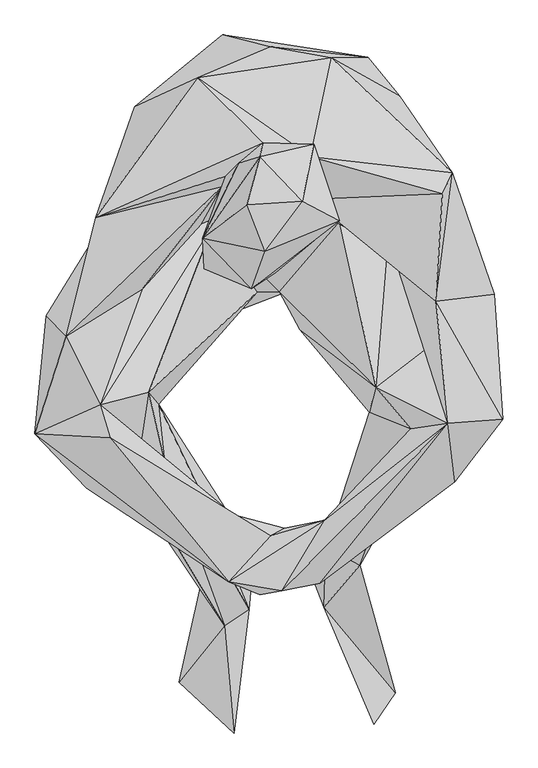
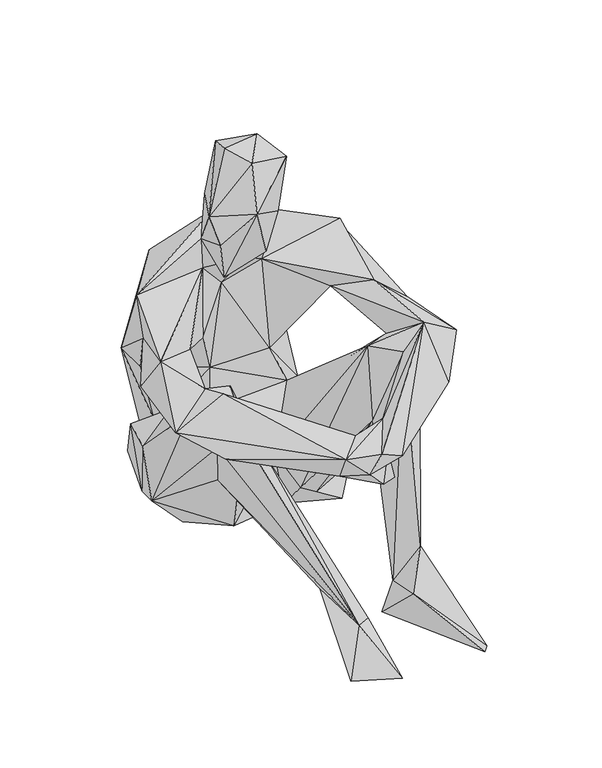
"""IFC4 building model written with IfcOpenShell, lengths in millimetres: geographic element geometry, Enscape AssetDefinition - Terrell Sitting : Enscape AssetDefinition - Terrell Sitting."""

from ifc_helpers import new_model, si_unit, origin, place, context, project, spatial, faceted_brep, source, transform, mapped, element, save


def geographic_element_d79e2ef8(model_context):
    return source(origin(), model_context, "Body", "Brep", [
        faceted_brep([(-69.9749738, 193.7705278, 305.7940602), (-196.3987797, 90.6900913, 365.691334), (-1.1522087, 177.025944, 471.1923301), (-144.8063552, 105.4798886, 154.4393897), (-173.1422395, -1.4537541, 237.7163768), (-252.1459758, -68.3381781, 611.2291217), (-105.9492305, 132.4641109, 551.887989), (-233.2037538, -63.1884336, 495.462656), (-183.2704097, 35.8780436, 347.2325206), (-104.5095474, 126.2701005, 112.0763496), (100.1647189, 77.6250735, 26.0373354), (63.4700358, 137.1574253, 104.6996266), (-182.8503609, 28.9906021, 41.7153537), (-190.9146458, 74.0734041, 117.730625), (117.5909936, 117.0489118, 144.4696039), (157.4442685, 61.159756, 164.8456305), (138.3260489, 162.1188223, 399.3470967), (183.6963296, 106.5922156, 342.4300849), (174.9456376, 15.9091633, 210.262835), (192.5068498, 13.5202659, 175.2659678), (65.4952005, -60.5108999, 365.8016026), (97.8884622, -73.940821, 280.9441686), (173.6103892, -21.0248735, 219.024092), (185.1524264, -176.421687, 107.6564193), (230.6494117, -249.9025613, 458.0534101), (176.8147498, -0.5702377, 50.5904071), (150.0100642, -311.1690879, 492.9928184), (11.7919529, -173.949495, 188.2195026), (-83.8132054, -78.2950446, 276.6626775), (-73.5418871, -59.1252036, 364.5320833), (35.5236977, -169.4004983, 56.3033484), (41.0618074, -228.5784781, 128.0606091), (-20.1988518, -174.6570021, 150.4700035), (140.8651322, -346.8687832, 332.8956366), (92.0851752, -195.660755, 75.9871081), (140.7102644, -224.5750874, 64.6738708), (211.1674547, -417.84814, 421.9207764), (203.8893253, -335.0815475, 280.141592), (319.6640015, -177.8965592, 475.2309322), (253.2489002, -362.7967238, 545.6236005), (174.7109741, -117.6379248, 515.6345367), (199.9246478, -370.7483709, 496.2358475), (76.3637424, -502.1541715, 454.900682), (127.2427887, -566.4244294, 159.5234126), (78.2821402, -539.4847393, 74.3608698), (122.4227548, -495.7348704, 128.0805618), (75.7747367, -626.4565587, 95.2883586), (46.3042408, -550.5293012, 14.7241), (92.167303, -543.1420207, 3.7311849), (177.8296828, -749.2794394, 4.7203009), (147.0814347, -793.8600183, 27.0006377), (69.859989, -592.1202898, 418.0980325), (331.9440484, -357.4123085, 496.293366), (263.1201148, -446.647495, 445.5433786), (229.6685278, -40.1935466, 475.8727252), (259.7151101, -3.9658509, 576.3296485), (235.8472645, -188.140884, 551.7753959), (15.4574309, -602.5746465, 447.7116764), (56.8993986, -41.8995656, 577.5663257), (245.5952764, -33.8000767, 607.436955), (56.5145425, 18.8636035, 673.353374), (-12.2765377, 39.2361097, 673.999846), (85.9474912, 161.2059623, 527.8993249), (62.1793754, -100.405246, 730.5237651), (61.4437014, 36.7099307, 786.4058614), (-42.7291095, -52.3410141, 560.8627796), (-10.7793696, -100.1846641, 640.6925321), (-100.2491936, -76.8929198, 458.9521587), (-70.8901659, -23.8619838, 588.60147), (-150.2247751, -27.4746623, 268.3508098), (-185.442239, -170.6899703, 515.9783363), (-213.5434598, 21.0354347, 225.3729552), (-208.7363303, -19.3939488, 191.6350573), (-161.296308, -98.5748619, 35.5753228), (-208.3667368, -54.7111407, 78.4334987), (-257.2241426, -290.4387414, 453.9983869), (-245.717302, -336.3299668, 540.0210023), (-176.1306971, -318.2454407, 511.9326115), (-161.5485847, -335.5778456, 311.8390441), (-194.3888813, -440.7995939, 426.7607331), (-152.8976262, -417.2837436, 394.5106268), (-113.8950065, -226.6108096, 87.7321288), (-220.6280231, -344.5338607, 310.6293678), (-246.4834899, -385.8878613, 423.7159491), (-85.8630165, -526.2953639, 102.9009223), (-67.1871454, -652.8306603, 82.882762), (-339.2210305, -377.6757121, 488.444984), (-265.0960088, -455.7255208, 444.5835948), (-294.0068245, -238.3147776, 564.0566349), (-323.2825398, -208.8184655, 495.9894717), (-54.2511977, -494.2517877, 424.384743), (-231.2783152, -383.6233318, 550.4201651), (-61.4695139, -589.7619128, 453.2345533), (-1.3223414, -523.9897966, 452.0342052), (18.8330971, -513.0250454, 395.9197998), (65.4893368, -540.5724645, 401.8345177), (71.2726712, -556.6270947, 343.2748914), (21.2665815, -598.4022617, 368.2808578), (-16.0171092, -608.5057855, 410.7729793), (-63.4008124, -569.1770315, 400.2000988), (3.8860643, -510.8508468, 366.2228286), (-106.5018624, -450.7787824, 260.1363361), (-32.207869, -629.3558478, 74.1191655), (-132.098034, -733.8665724, 15.8235095), (-53.8346656, -806.829989, 39.3041633), (-24.746675, -548.9840508, 17.4227562), (-60.657572, -528.8004279, 18.6277647), (-65.654777, -8.5617788, 649.5019197), (-16.2564665, 18.8682973, 858.8495851), (-47.3367684, 9.6259881, 744.4406152), (-98.7977833, -98.014012, 770.6762552), (-34.5920734, -49.4581461, 889.0440464), (44.8821671, -44.7601415, 893.7314749), (98.0362967, -72.6395994, 835.8569741), (-8.731911, -116.213508, 882.4052811), (-28.2560997, -170.2699214, 795.778513), (7.0211985, -146.3762671, 677.1936417), (-96.7491567, -141.1221027, 723.6539721), (-83.4999308, -131.8211257, 636.1446977)], [[[0, 1, 2]], [[1, 3, 4]], [[5, 6, 1]], [[1, 7, 5]], [[1, 0, 3]], [[6, 2, 1]], [[8, 7, 1]], [[8, 1, 4]], [[9, 3, 0]], [[4, 3, 9]], [[10, 9, 11]], [[9, 10, 12]], [[9, 13, 4]], [[0, 11, 9]], [[12, 13, 9]], [[14, 11, 0]], [[10, 11, 15]], [[11, 14, 15]], [[0, 16, 14]], [[16, 17, 14]], [[17, 18, 14]], [[15, 14, 18]], [[10, 15, 19]], [[19, 15, 18]], [[17, 20, 18]], [[18, 20, 21]], [[18, 22, 19]], [[18, 21, 22]], [[23, 19, 24]], [[19, 23, 25]], [[25, 10, 19]], [[24, 19, 22]], [[22, 21, 26]], [[24, 22, 26]], [[21, 27, 26]], [[27, 21, 28]], [[21, 29, 28]], [[29, 21, 20]], [[27, 30, 31]], [[31, 26, 27]], [[28, 32, 27]], [[32, 30, 27]], [[33, 26, 31]], [[33, 31, 34]], [[30, 35, 31]], [[35, 34, 31]], [[23, 33, 34]], [[35, 23, 34]], [[35, 30, 23]], [[24, 36, 23]], [[23, 36, 37]], [[30, 25, 23]], [[33, 23, 37]], [[36, 24, 38]], [[39, 24, 26]], [[24, 39, 40]], [[40, 38, 24]], [[41, 39, 26]], [[41, 26, 33]], [[41, 36, 42]], [[43, 36, 41]], [[44, 41, 33]], [[44, 43, 41]], [[42, 39, 41]], [[45, 33, 37]], [[33, 45, 44]], [[46, 43, 44]], [[44, 47, 46]], [[47, 44, 48]], [[45, 48, 44]], [[37, 43, 45]], [[45, 43, 48]], [[49, 48, 43]], [[49, 47, 48]], [[37, 36, 43]], [[49, 43, 46]], [[50, 49, 46]], [[47, 50, 46]], [[50, 47, 49]], [[36, 51, 42]], [[36, 38, 52]], [[53, 36, 52]], [[36, 53, 51]], [[54, 38, 40]], [[38, 54, 55]], [[56, 38, 55]], [[52, 38, 56]], [[39, 53, 52]], [[56, 39, 52]], [[39, 51, 53]], [[39, 57, 51]], [[39, 56, 40]], [[57, 39, 42]], [[40, 56, 58]], [[58, 56, 59]], [[59, 56, 55]], [[58, 59, 60]], [[60, 59, 55]], [[6, 61, 60]], [[62, 60, 55]], [[62, 6, 60]], [[63, 58, 60]], [[63, 60, 64]], [[60, 61, 64]], [[61, 6, 5]], [[2, 6, 62]], [[62, 55, 17]], [[62, 17, 16]], [[62, 16, 2]], [[0, 2, 16]], [[54, 17, 55]], [[20, 17, 54]], [[20, 54, 40]], [[20, 58, 65]], [[40, 58, 20]], [[65, 29, 20]], [[58, 63, 66]], [[58, 66, 65]], [[65, 67, 29]], [[68, 65, 66]], [[68, 67, 65]], [[8, 69, 29]], [[29, 69, 28]], [[67, 8, 29]], [[67, 68, 70]], [[8, 67, 7]], [[70, 7, 67]], [[4, 69, 8]], [[71, 69, 4]], [[4, 13, 71]], [[71, 12, 72]], [[12, 71, 13]], [[71, 72, 69]], [[73, 12, 10]], [[12, 74, 72]], [[73, 74, 12]], [[74, 75, 72]], [[75, 69, 72]], [[69, 76, 28]], [[75, 76, 69]], [[28, 77, 32]], [[28, 76, 77]], [[78, 32, 77]], [[79, 77, 76]], [[80, 78, 77]], [[80, 77, 79]], [[32, 78, 81]], [[81, 30, 32]], [[81, 78, 74]], [[30, 81, 73]], [[74, 73, 81]], [[25, 30, 73]], [[25, 73, 10]], [[78, 82, 74]], [[75, 74, 83]], [[74, 82, 83]], [[84, 82, 78]], [[85, 83, 82]], [[84, 85, 82]], [[83, 86, 75]], [[87, 86, 83]], [[83, 85, 79]], [[83, 79, 87]], [[75, 86, 7]], [[7, 70, 75]], [[75, 70, 76]], [[88, 7, 89]], [[5, 7, 88]], [[89, 7, 86]], [[86, 88, 89]], [[76, 88, 86]], [[70, 68, 88]], [[88, 76, 70]], [[68, 5, 88]], [[79, 76, 90]], [[91, 76, 86]], [[76, 91, 90]], [[91, 86, 92]], [[91, 93, 90]], [[93, 91, 92]], [[94, 90, 93]], [[93, 92, 42]], [[93, 42, 94]], [[95, 94, 42]], [[95, 42, 51]], [[92, 57, 42]], [[94, 95, 96]], [[97, 95, 98]], [[51, 98, 95]], [[97, 96, 95]], [[98, 51, 57]], [[57, 92, 98]], [[99, 97, 98]], [[92, 99, 98]], [[97, 99, 94]], [[97, 94, 96]], [[87, 90, 99]], [[87, 99, 92]], [[94, 99, 100]], [[100, 99, 90]], [[100, 90, 94]], [[87, 79, 90]], [[87, 92, 86]], [[85, 80, 79]], [[101, 78, 80]], [[80, 102, 101]], [[85, 102, 80]], [[84, 103, 85]], [[85, 103, 104]], [[104, 102, 85]], [[105, 102, 104]], [[102, 105, 101]], [[105, 78, 101]], [[105, 84, 78]], [[105, 106, 84]], [[84, 106, 103]], [[103, 105, 104]], [[103, 106, 105]], [[107, 5, 68]], [[68, 66, 107]], [[107, 61, 5]], [[61, 108, 64]], [[61, 109, 108]], [[109, 61, 107]], [[108, 109, 110]], [[108, 110, 111]], [[108, 112, 64]], [[108, 111, 112]], [[63, 64, 113]], [[113, 64, 112]], [[113, 112, 114]], [[114, 112, 111]], [[111, 110, 114]], [[115, 113, 114]], [[114, 110, 115]], [[63, 113, 115]], [[63, 116, 66]], [[63, 115, 116]], [[115, 117, 118]], [[115, 110, 117]], [[115, 118, 116]], [[118, 66, 116]], [[118, 107, 66]], [[118, 117, 107]], [[110, 107, 117]], [[110, 109, 107]]]),
    ])


if __name__ == "__main__":
    model = new_model("IFC4")
    model_context = context("Model", 3, world=origin())
    ifc_project = project(units=[si_unit("LENGTHUNIT", "METRE", prefix="MILLI")], contexts=[model_context])
    site = spatial("IfcSite", under=ifc_project)
    building = spatial("IfcBuilding", under=site)
    placement = place(None, origin())
    geographic_element_shape = geographic_element_d79e2ef8(model_context)
    element("IfcGeographicElement", 1, ObjectType="Enscape AssetDefinition - Terrell Sitting : Enscape AssetDefinition - Terrell Sitting", at=placement, inside=building, context=model_context, shape_type="MappedRepresentation", body=[
        mapped(geographic_element_shape, transform((0.0, 0.0, 0.0), x_axis=(1.0, 0.0, 0.0), y_axis=(0.0, 1.0, 0.0), z_axis=(0.0, 0.0, 1.0))),
    ])
    save(model, "model.ifc")
